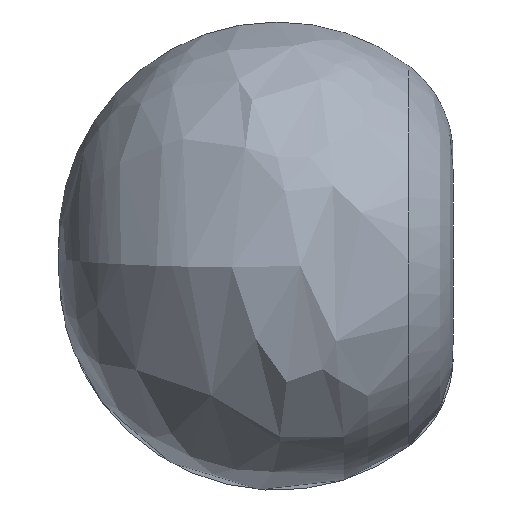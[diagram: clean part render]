
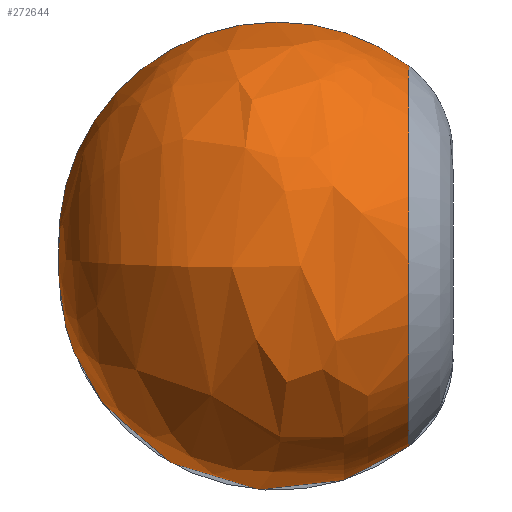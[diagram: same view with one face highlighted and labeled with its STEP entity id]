
A CAD part, left-side view. The second image highlights one B-rep face of the part: STEP entity #272644.
In plain terms, the highlighted free-form (B-spline) face has degree [3, 3] with [7, 4] control points.
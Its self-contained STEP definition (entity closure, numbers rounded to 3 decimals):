
#272517=CARTESIAN_POINT('',(-2.617,370.,49.931));
#272518=DIRECTION('',(-0.999,0.,-0.052));
#272519=DIRECTION('',(-0.042,-0.602,0.798));
#272520=AXIS2_PLACEMENT_3D('',#272517,#272518,#272519);
#272540=CARTESIAN_POINT('',(0.,-47.837,0.));
#272541=DIRECTION('',(0.,-1.,0.));
#272542=DIRECTION('',(-0.052,0.,0.999));
#272543=AXIS2_PLACEMENT_3D('',#272540,#272541,#272542);
#272555=CARTESIAN_POINT('',(2.617,370.,49.931));
#272556=DIRECTION('',(-0.999,0.,0.052));
#272557=DIRECTION('',(0.042,-0.602,0.798));
#272558=AXIS2_PLACEMENT_3D('',#272555,#272556,#272557);
#272574=CARTESIAN_POINT('',(-31.636,-47.837,
603.66));
#272575=CARTESIAN_POINT('',(0.,1062.492,
0.));
#272576=VERTEX_POINT('',#272574);
#272577=VERTEX_POINT('',#272575);
#272584=CARTESIAN_POINT('',(31.636,-47.837,
603.66));
#272585=VERTEX_POINT('',#272584);
#272608=CARTESIAN_POINT('',(1.637,-72.771,
584.787));
#272609=CARTESIAN_POINT('',(2.915,478.156,
1040.917));
#272610=CARTESIAN_POINT('',(1.997,1114.001,
713.386));
#272611=CARTESIAN_POINT('',(0.,1062.492,0.));
#272612=CARTESIAN_POINT('',(1167.944,-72.771,
581.521));
#272613=CARTESIAN_POINT('',(2078.934,478.156,
1035.104));
#272614=CARTESIAN_POINT('',(1424.785,1114.001,
709.402));
#272615=CARTESIAN_POINT('',(0.,1062.492,
0.));
#272616=CARTESIAN_POINT('',(1166.311,-72.771,
-584.789));
#272617=CARTESIAN_POINT('',(2076.028,478.156,
-1040.921));
#272618=CARTESIAN_POINT('',(1422.793,1114.001,
-713.389));
#272619=CARTESIAN_POINT('',(0.,1062.492,
0.));
#272620=CARTESIAN_POINT('',(0.,-72.771,
-584.789));
#272621=CARTESIAN_POINT('',(0.,478.156,
-1040.921));
#272622=CARTESIAN_POINT('',(0.,1114.001,
-713.389));
#272623=CARTESIAN_POINT('',(0.,1062.492,0.));
#272624=CARTESIAN_POINT('',(-1166.311,-72.771,
-584.789));
#272625=CARTESIAN_POINT('',(-2076.028,478.156,
-1040.921));
#272626=CARTESIAN_POINT('',(-1422.793,1114.001,
-713.389));
#272627=CARTESIAN_POINT('',(0.,1062.492,
0.));
#272628=CARTESIAN_POINT('',(-1167.944,-72.771,
581.521));
#272629=CARTESIAN_POINT('',(-2078.934,478.156,
1035.104));
#272630=CARTESIAN_POINT('',(-1424.785,1114.001,
709.402));
#272631=CARTESIAN_POINT('',(0.,1062.492,
0.));
#272632=CARTESIAN_POINT('',(-1.637,-72.771,
584.787));
#272633=CARTESIAN_POINT('',(-2.915,478.156,
1040.917));
#272634=CARTESIAN_POINT('',(-1.997,1114.001,
713.386));
#272635=CARTESIAN_POINT('',(0.,1062.492,0.));
#272636=(BOUNDED_SURFACE()B_SPLINE_SURFACE(3,3,((#272608,#272609,#272610,
#272611),(#272612,#272613,#272614,#272615),(#272616,#272617,#272618,#272619),(
#272620,#272621,#272622,#272623),(#272624,#272625,#272626,#272627),(#272628,
#272629,#272630,#272631),(#272632,#272633,#272634,#272635)),.UNSPECIFIED.,.F.,
.F.,.F.)B_SPLINE_SURFACE_WITH_KNOTS((4,3,4),(4,4),(0.,1.,2.),(0.,1.),
.UNSPECIFIED.)GEOMETRIC_REPRESENTATION_ITEM()RATIONAL_B_SPLINE_SURFACE(((
2.868,1.707,1.707,2.868),(
0.959,0.571,0.571,0.959),(
0.959,0.571,0.571,0.959),(
2.868,1.707,1.707,2.868),(
0.959,0.571,0.571,0.959),(
0.959,0.571,0.571,0.959),(
2.868,1.707,1.707,2.868)))REPRESENTATION_ITEM('')SURFACE());
#272637=ORIENTED_EDGE('',*,*,#272595,.F.);
#272639=ORIENTED_EDGE('',*,*,#272638,.T.);
#272641=ORIENTED_EDGE('',*,*,#272640,.T.);
#272642=EDGE_LOOP('',(#272637,#272639,#272641));
#272643=FACE_OUTER_BOUND('',#272642,.F.);
#272644=ADVANCED_FACE('',(#272643),#272636,.T.);
#272521=CIRCLE('',#272520,694.295);
#272544=CIRCLE('',#272543,604.489);
#272559=CIRCLE('',#272558,694.295);
#272595=EDGE_CURVE('',#272576,#272577,#272521,.T.);
#272638=EDGE_CURVE('',#272576,#272585,#272544,.T.);
#272640=EDGE_CURVE('',#272585,#272577,#272559,.T.);
